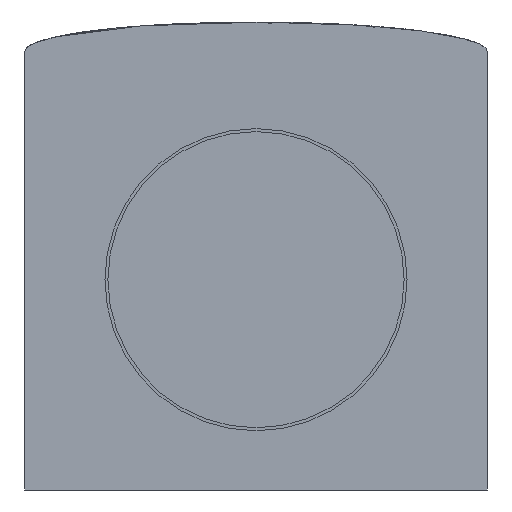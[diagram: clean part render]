
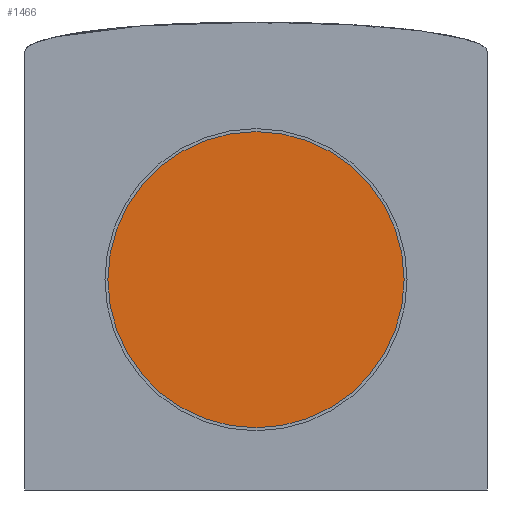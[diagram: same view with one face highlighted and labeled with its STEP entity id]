
A CAD part, front view. The second image highlights one B-rep face of the part: STEP entity #1466.
In plain terms, the highlighted planar face has unit normal (0, -1, 0).
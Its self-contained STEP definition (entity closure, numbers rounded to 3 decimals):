
#228 = FACE_OUTER_BOUND ( 'NONE', #5271, .T. ) ;
#902 = DIRECTION ( 'NONE',  ( 0., 1., 0. ) ) ;
#1466 = ADVANCED_FACE ( 'NONE', ( #228 ), #6640, .F. ) ;
#1516 = DIRECTION ( 'NONE',  ( 0., 1., 0. ) ) ;
#2299 = AXIS2_PLACEMENT_3D ( 'NONE', #4505, #7334, #2360 ) ;
#2357 = DIRECTION ( 'NONE',  ( 0., 0., 1. ) ) ;
#2360 = DIRECTION ( 'NONE',  ( 0., 0., 1. ) ) ;
#2380 = VERTEX_POINT ( 'NONE', #4682 ) ;
#2602 = EDGE_CURVE ( 'NONE', #7967, #2380, #5899, .T. ) ;
#3369 = ORIENTED_EDGE ( 'NONE', *, *, #8000, .F. ) ;
#3888 = CARTESIAN_POINT ( 'NONE',  ( 0., -24., 2. ) ) ;
#4082 = CIRCLE ( 'NONE', #2299, 10. ) ;
#4484 = DIRECTION ( 'NONE',  ( 0., 0., 1. ) ) ;
#4505 = CARTESIAN_POINT ( 'NONE',  ( 0., -24., 2. ) ) ;
#4568 = AXIS2_PLACEMENT_3D ( 'NONE', #3888, #902, #4484 ) ;
#4682 = CARTESIAN_POINT ( 'NONE',  ( 0., -24., -8. ) ) ;
#5271 = EDGE_LOOP ( 'NONE', ( #7857, #3369 ) ) ;
#5899 = CIRCLE ( 'NONE', #4568, 10. ) ;
#6591 = CARTESIAN_POINT ( 'NONE',  ( 0., -24., 12. ) ) ;
#6640 = PLANE ( 'NONE',  #7580 ) ;
#7334 = DIRECTION ( 'NONE',  ( 0., 1., 0. ) ) ;
#7580 = AXIS2_PLACEMENT_3D ( 'NONE', #8730, #1516, #2357 ) ;
#7857 = ORIENTED_EDGE ( 'NONE', *, *, #2602, .F. ) ;
#7967 = VERTEX_POINT ( 'NONE', #6591 ) ;
#8000 = EDGE_CURVE ( 'NONE', #2380, #7967, #4082, .T. ) ;
#8730 = CARTESIAN_POINT ( 'NONE',  ( 0., -24., 12. ) ) ;
